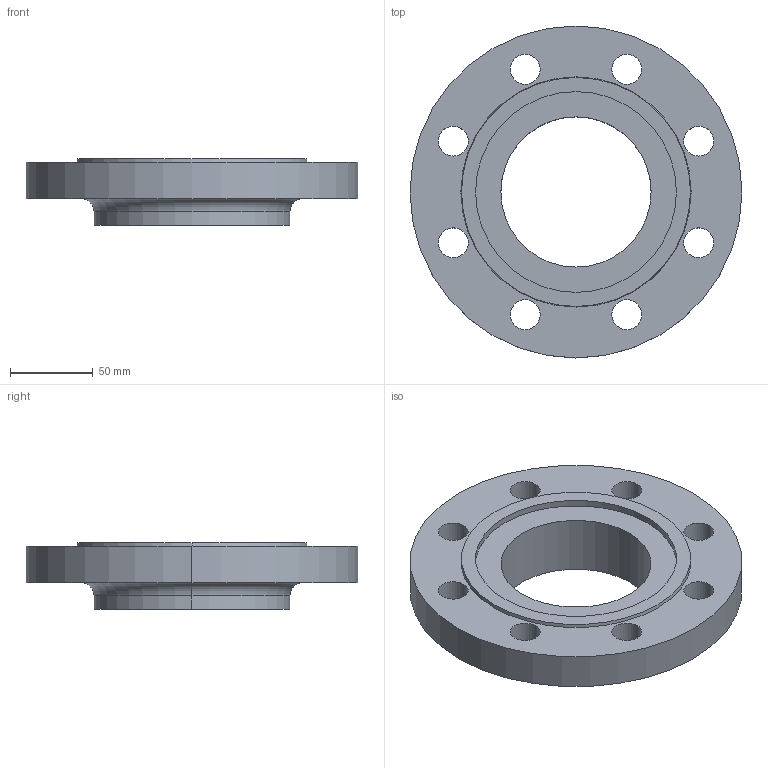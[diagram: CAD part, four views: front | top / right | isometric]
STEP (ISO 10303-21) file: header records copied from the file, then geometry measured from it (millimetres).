
FILE_DESCRIPTION (( 'STEP AP214' ), '1' );
FILE_NAME ('PN40 DN80 Type 12 - Type F Face.STEP', '2019-01-01T19:39:46', ( '' ), ( '' ), 'SwSTEP 2.0', 'SolidWorks 2019', '' );
FILE_SCHEMA (( 'AUTOMOTIVE_DESIGN' ));
Length unit declared in the file: millimetre
Products named in the file (1): PN40 DN80 Type 12 - Type F Face
Bounding box: 200 x 200 x 40 mm (x, y, z)
Volume: 579081.2 mm3; surface area: 86842.9 mm2
Topology: 1 solids, 1 shells, 33 faces, 82 edges, 54 vertices
Faces by surface type: cylinder 24, plane 5, torus 2, cone 2
Entity records: 1086 total; most frequent: DIRECTION 206, CARTESIAN_POINT 170, ORIENTED_EDGE 164, AXIS2_PLACEMENT_3D 90, EDGE_CURVE 82, CIRCLE 56, VERTEX_POINT 54, EDGE_LOOP 54
